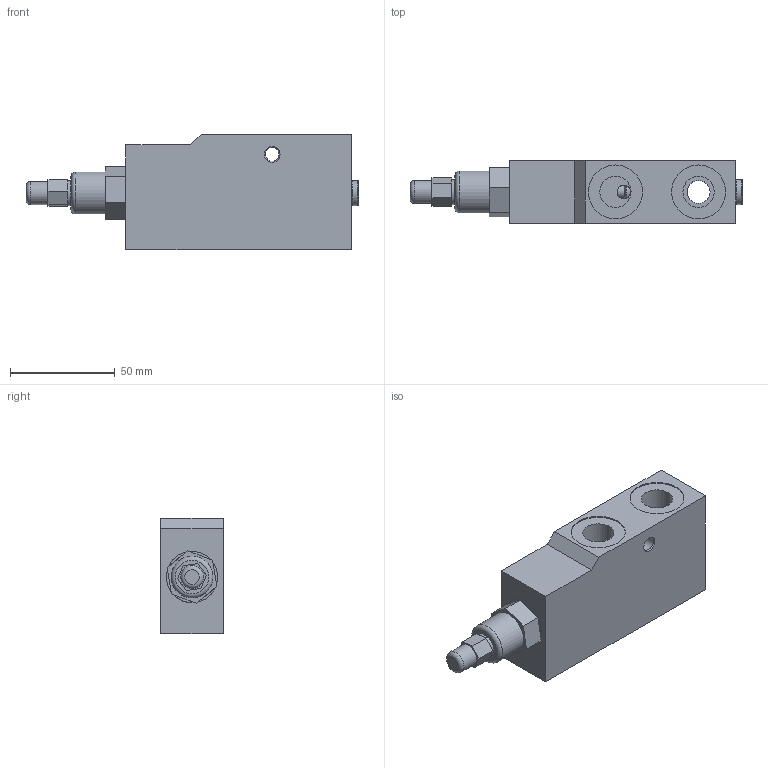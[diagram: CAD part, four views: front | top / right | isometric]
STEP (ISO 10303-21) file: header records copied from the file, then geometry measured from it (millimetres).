
FILE_DESCRIPTION(/* description */ ('Unknown'),/* implementation_level */ '2;1');
FILE_NAME(/* name */ 'VOSE38',/* time_stamp */ '2024-12-05T10:46:29+01:00',/* author */ ('Unknown'),/* organization */ ('Unknown'),/* preprocessor_version */ 'ST-DEVELOPER v19.4',/* originating_system */ 'Solid Edge',/* authorisation */ 'Unknown');
FILE_SCHEMA (('AUTOMOTIVE_DESIGN {1 0 10303 214 3 1 1}'));
Length unit declared in the file: millimetre
Products named in the file (1): VOSE38
Bounding box: 158.7 x 30 x 55 mm (x, y, z)
Volume: 162770.5 mm3; surface area: 41924.8 mm2
Topology: 2 solids, 2 shells, 210 faces, 487 edges, 320 vertices
Faces by surface type: plane 97, cylinder 77, cone 25, torus 7, bspline 4
Full cylindrical faces by diameter (mm): 1 x1, 1.5 x1, 2 x1, 4.2 x8, 4.85 x2, 4.917 x2, 5 x1, 5.92 x1, 5.95 x1, 6.5 x3, 6.561 x1, 7.42 x1, 7.55 x2, 8.5 x1, 8.95 x3, 9 x2, 10 x2, 10.23 x2, 10.85 x1, 11 x2, 11.5 x1, 11.9 x1, 12 x2, 12.15 x2, 12.8 x1, 12.96 x2, 13.2 x2, 13.3 x1, 13.55 x1, 13.68 x1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
Entity records: 14107 total; most frequent: CARTESIAN_POINT 8560, DIRECTION 852, ORIENTED_EDGE 632, FACE_BOUND 401, EDGE_LOOP 400, AXIS2_PLACEMENT_3D 378, EDGE_CURVE 316, VERTEX_POINT 261
